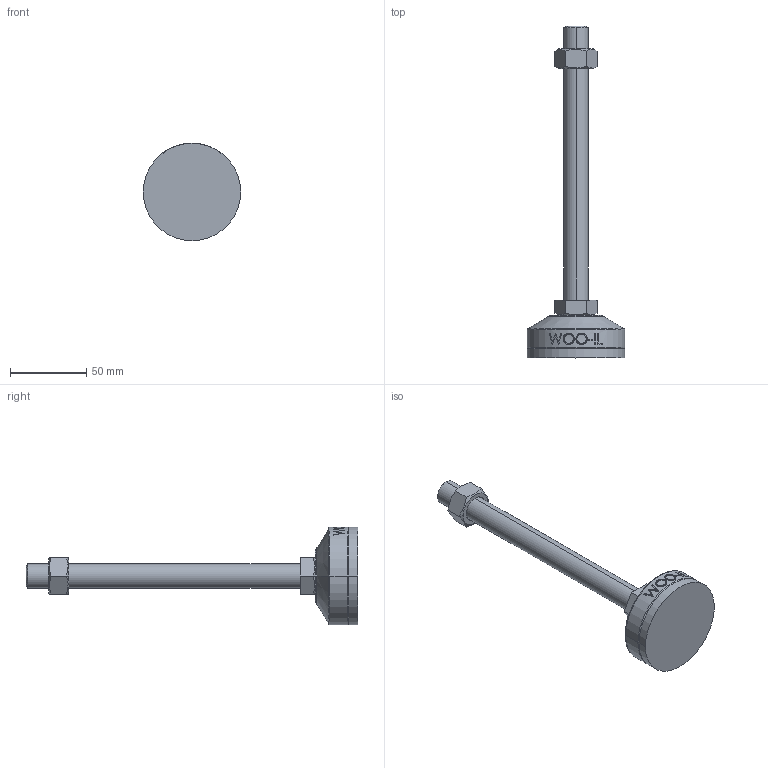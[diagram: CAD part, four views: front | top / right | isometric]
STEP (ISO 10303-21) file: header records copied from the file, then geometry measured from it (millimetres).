
FILE_DESCRIPTION (( 'STEP AP214' ), '1' );
FILE_NAME ('MFZR64-M16-180.step', '2021-03-29T06:56:01', ( '' ), ( '' ), 'SwSTEP 2.0', 'SolidWorks 2019', '' );
FILE_SCHEMA (( 'AUTOMOTIVE_DESIGN' ));
Length unit declared in the file: millimetre
Products named in the file (2): MFZR64-M16-180
Bounding box: 64 x 218 x 64 mm (x, y, z)
Volume: 123315.2 mm3; surface area: 30078 mm2
Topology: 4 solids, 4 shells, 103 faces, 235 edges, 150 vertices
Faces by surface type: plane 49, cylinder 18, bspline 16, cone 14, torus 6
Entity records: 4435 total; most frequent: CARTESIAN_POINT 2162, ORIENTED_EDGE 470, DIRECTION 417, EDGE_CURVE 235, AXIS2_PLACEMENT_3D 159, VERTEX_POINT 150, EDGE_LOOP 115, FACE_OUTER_BOUND 103
